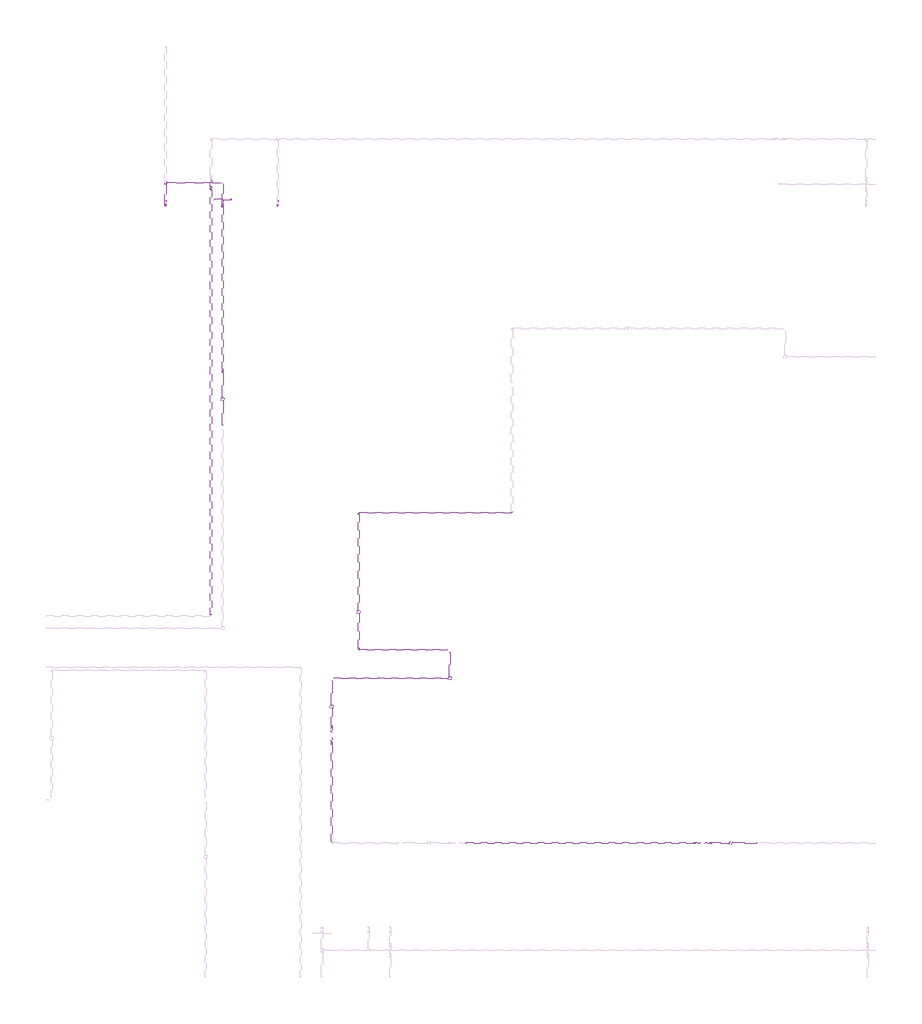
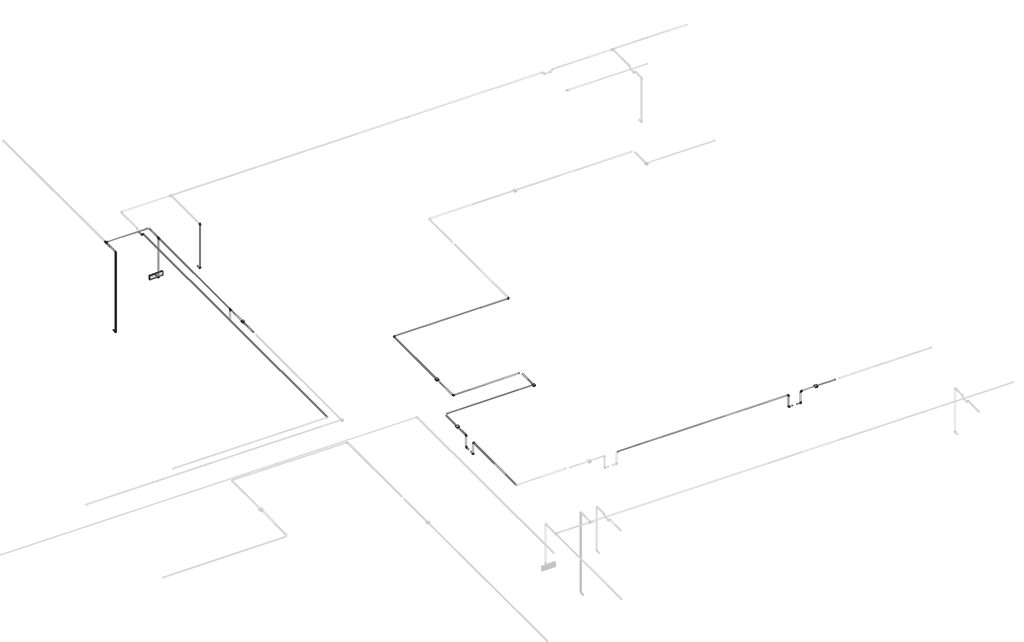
# One storey, part 11 of 13: 36 cable carrier segments, 21 cable carrier fittings, 6 alarms.
"""IFC4 building model written with IfcOpenShell, lengths in millimetres."""

from ifc_helpers import new_model, si_unit, point, frame, frame_2d, origin, place, context, project, spatial, circle_curve, trimmed, segment, composite_curve, outline, extrude, transform, mapped, element, save
from components import alarm_4b7e8fd8, alarm_a2247946, cable_carrier_fitting_69f1a801, cable_carrier_fitting_8122f9af, cable_carrier_fitting_8fd13dfc

model = new_model("IFC4")

# Units and contexts
model_context = context("Model", 3, world=origin())
ifc_project = project(units=[si_unit("LENGTHUNIT", "METRE", prefix="MILLI")], contexts=[model_context])

# Site, building, storey
site = spatial("IfcSite", under=ifc_project)
building = spatial("IfcBuilding", under=site)
storey = spatial("IfcBuildingStorey", under=building, Name="2 этаж", Elevation=3500.0)

# Alarms
placement = place(None, origin())
alarm_shape = alarm_4b7e8fd8(model_context)
element("IfcAlarm", 1, ObjectType="RBZ_Оповещатель_Световой_Рубеж_ОПОП1-R3(грань) : ОПОП 1-R3 \"Выход\"", at=placement, inside=storey, context=model_context, shape_type="MappedRepresentation", body=[
    mapped(alarm_shape, transform((6587.6759979, 12704.6370105, 6000.0), x_axis=(-1.0, 0.0, 0.0), y_axis=(0.0, 0.0, 1.0), z_axis=(0.0, 1.0, 0.0))),
])
alarm_2_shape = alarm_a2247946(model_context)
element("IfcAlarm", 2, ObjectType="RBZ_ИзоляторШлейфа_Рубеж_ИЗ-1_прот.R3(плоскость) : ИЗ-1 прот.R3", at=placement, inside=storey, context=model_context, shape_type="MappedRepresentation", body=[
    mapped(alarm_2_shape, transform((8982.6759979, 5444.6370105, 6997.7), x_axis=(1.0, 0.0, 0.0), y_axis=(0.0, 1.0, 0.0), z_axis=(0.0, 0.0, 1.0))),
])
element("IfcAlarm", 3, ObjectType="RBZ_ИзоляторШлейфа_Рубеж_ИЗ-1_прот.R3(плоскость) : ИЗ-1 прот.R3", at=placement, inside=storey, context=model_context, shape_type="MappedRepresentation", body=[
    mapped(alarm_2_shape, transform((15536.8600649, 1384.6370105, 6997.7), x_axis=(1.0, 0.0, 0.0), y_axis=(0.0, 1.0, 0.0), z_axis=(0.0, 0.0, 1.0))),
])
element("IfcAlarm", 4, ObjectType="RBZ_ИзоляторШлейфа_Рубеж_ИЗ-1_прот.R3(плоскость) : ИЗ-1 прот.R3", at=placement, inside=storey, context=model_context, shape_type="MappedRepresentation", body=[
    mapped(alarm_2_shape, transform((8507.6759979, 3785.1670972, 6997.7), x_axis=(1.0, 0.0, 0.0), y_axis=(0.0, 1.0, 0.0), z_axis=(0.0, 0.0, 1.0))),
])
element("IfcAlarm", 5, ObjectType="RBZ_ИзоляторШлейфа_Рубеж_ИЗ-1_прот.R3(плоскость) : ИЗ-1 прот.R3", at=placement, inside=storey, context=model_context, shape_type="MappedRepresentation", body=[
    mapped(alarm_2_shape, transform((6587.6759979, 9194.6370105, 6997.7), x_axis=(1.0, 0.0, 0.0), y_axis=(0.0, 1.0, 0.0), z_axis=(0.0, 0.0, 1.0))),
])
element("IfcAlarm", 6, ObjectType="RBZ_ИзоляторШлейфа_Рубеж_ИЗ-1_прот.R3(плоскость) : ИЗ-1 прот.R3", at=placement, inside=storey, context=model_context, shape_type="MappedRepresentation", body=[
    mapped(alarm_2_shape, transform((10587.6759979, 4285.1670972, 6997.7), x_axis=(1.0, 0.0, 0.0), y_axis=(0.0, 1.0, 0.0), z_axis=(0.0, 0.0, 1.0))),
])

# Cable carrier fittings
cable_carrier_fitting_shape = cable_carrier_fitting_69f1a801(model_context)
element("IfcCableCarrierFitting", 7, ObjectType="ADSK_Поворот_Минимальный размер : Неспецифицируемый", at=placement, inside=storey, context=model_context, shape_type="MappedRepresentation", body=[
    mapped(cable_carrier_fitting_shape, transform((8982.6759979, 7198.1370105, 6986.95), x_axis=(-1.0, 0.0, 0.0), y_axis=(0.0, -1.0, 0.0), z_axis=(0.0, 0.0, 1.0))),
])
element("IfcCableCarrierFitting", 8, ObjectType="ADSK_Поворот_Минимальный размер : Неспецифицируемый", at=placement, inside=storey, context=model_context, shape_type="MappedRepresentation", body=[
    mapped(cable_carrier_fitting_shape, transform((11682.6759979, 7198.1370105, 6986.95), x_axis=(1.0, 0.0, 0.0), y_axis=(0.0, 1.0, 0.0), z_axis=(0.0, 0.0, 1.0))),
])
element("IfcCableCarrierFitting", 9, ObjectType="ADSK_Поворот_Минимальный размер : Неспецифицируемый", at=placement, inside=storey, context=model_context, shape_type="MappedRepresentation", body=[
    mapped(cable_carrier_fitting_shape, transform((15181.3758035, 1384.6370105, 6691.5753772), x_axis=(1.0, 0.0, 0.0), y_axis=(0.0, 0.0, 1.0), z_axis=(0.0, -1.0, 0.0))),
])
element("IfcCableCarrierFitting", 10, ObjectType="ADSK_Поворот_Минимальный размер : Неспецифицируемый", at=placement, inside=storey, context=model_context, shape_type="MappedRepresentation", body=[
    mapped(cable_carrier_fitting_shape, transform((15181.3758035, 1384.6370105, 6986.95), x_axis=(0.0, 0.0, 1.0), y_axis=(1.0, 0.0, 0.0), z_axis=(0.0, 1.0, 0.0))),
])
element("IfcCableCarrierFitting", 11, ObjectType="ADSK_Поворот_Минимальный размер : Неспецифицируемый", at=placement, inside=storey, context=model_context, shape_type="MappedRepresentation", body=[
    mapped(cable_carrier_fitting_shape, transform((14893.9761923, 1384.6370105, 6691.5753772), x_axis=(-1.0, 0.0, 0.0), y_axis=(0.0, 0.0, 1.0), z_axis=(0.0, 1.0, 0.0))),
])
element("IfcCableCarrierFitting", 12, ObjectType="ADSK_Поворот_Минимальный размер : Неспецифицируемый", at=placement, inside=storey, context=model_context, shape_type="MappedRepresentation", body=[
    mapped(cable_carrier_fitting_shape, transform((14893.9761923, 1384.6370105, 6990.0), x_axis=(0.0, 0.0, 1.0), y_axis=(-1.0, 0.0, 0.0), z_axis=(0.0, -1.0, 0.0))),
])
element("IfcCableCarrierFitting", 13, ObjectType="ADSK_Поворот_Минимальный размер : Неспецифицируемый", at=placement, inside=storey, context=model_context, shape_type="MappedRepresentation", body=[
    mapped(cable_carrier_fitting_shape, transform((8507.6759979, 3140.9372049, 6691.5753772), x_axis=(0.0, -1.0, 0.0), y_axis=(0.0, 0.0, 1.0), z_axis=(-1.0, 0.0, 0.0))),
])
element("IfcCableCarrierFitting", 14, ObjectType="ADSK_Поворот_Минимальный размер : Неспецифицируемый", at=placement, inside=storey, context=model_context, shape_type="MappedRepresentation", body=[
    mapped(cable_carrier_fitting_shape, transform((8507.6759979, 3140.9372049, 6986.95), x_axis=(0.0, 0.0, 1.0), y_axis=(0.0, -1.0, 0.0), z_axis=(1.0, 0.0, 0.0))),
])
element("IfcCableCarrierFitting", 15, ObjectType="ADSK_Поворот_Минимальный размер : Неспецифицируемый", at=placement, inside=storey, context=model_context, shape_type="MappedRepresentation", body=[
    mapped(cable_carrier_fitting_shape, transform((8507.6759979, 3428.3368161, 6691.5753772), x_axis=(0.0, 1.0, 0.0), y_axis=(0.0, 0.0, 1.0), z_axis=(1.0, 0.0, 0.0))),
])
element("IfcCableCarrierFitting", 16, ObjectType="ADSK_Поворот_Минимальный размер : Неспецифицируемый", at=placement, inside=storey, context=model_context, shape_type="MappedRepresentation", body=[
    mapped(cable_carrier_fitting_shape, transform((8507.6759979, 3428.3368161, 6986.95), x_axis=(0.0, 0.0, 1.0), y_axis=(0.0, 1.0, 0.0), z_axis=(-1.0, 0.0, 0.0))),
])
element("IfcCableCarrierFitting", 17, ObjectType="ADSK_Поворот_Минимальный размер : Неспецифицируемый", at=placement, inside=storey, context=model_context, shape_type="MappedRepresentation", body=[
    mapped(cable_carrier_fitting_shape, transform((8982.6759979, 4788.6370105, 6986.95), x_axis=(0.0, -1.0, 0.0), y_axis=(1.0, 0.0, 0.0), z_axis=(0.0, 0.0, 1.0))),
])
element("IfcCableCarrierFitting", 18, ObjectType="ADSK_Поворот_Минимальный размер : Неспецифицируемый", at=placement, inside=storey, context=model_context, shape_type="MappedRepresentation", body=[
    mapped(cable_carrier_fitting_shape, transform((7560.1759979, 12607.4372049, 5897.4861504), x_axis=(0.0, -1.0, 0.0), y_axis=(0.0, 0.0, 1.0), z_axis=(-1.0, 0.0, 0.0))),
])
element("IfcCableCarrierFitting", 19, ObjectType="ADSK_Поворот_Минимальный размер : Неспецифицируемый", at=placement, inside=storey, context=model_context, shape_type="MappedRepresentation", body=[
    mapped(cable_carrier_fitting_shape, transform((7560.1759979, 12607.4372049, 6990.0), x_axis=(0.0, 0.0, 1.0), y_axis=(0.0, 1.0, 0.0), z_axis=(-1.0, 0.0, 0.0))),
])
element("IfcCableCarrierFitting", 20, ObjectType="ADSK_Поворот_Минимальный размер : Неспецифицируемый", at=placement, inside=storey, context=model_context, shape_type="MappedRepresentation", body=[
    mapped(cable_carrier_fitting_shape, transform((5582.6759979, 12607.4372049, 5000.0), x_axis=(0.0, -1.0, 0.0), y_axis=(0.0, 0.0, 1.0), z_axis=(-1.0, 0.0, 0.0))),
])
element("IfcCableCarrierFitting", 21, ObjectType="ADSK_Поворот_Минимальный размер : Неспецифицируемый", at=placement, inside=storey, context=model_context, shape_type="MappedRepresentation", body=[
    mapped(cable_carrier_fitting_shape, transform((5582.6759979, 12607.4372049, 6986.95), x_axis=(0.0, 0.0, 1.0), y_axis=(0.0, 1.0, 0.0), z_axis=(-1.0, 0.0, 0.0))),
])
element("IfcCableCarrierFitting", 22, ObjectType="ADSK_Поворот_Минимальный размер : Неспецифицируемый", at=placement, inside=storey, context=model_context, shape_type="MappedRepresentation", body=[
    mapped(cable_carrier_fitting_shape, transform((6587.6759979, 12607.4372049, 6000.0), x_axis=(0.0, -1.0, 0.0), y_axis=(0.0, 0.0, 1.0), z_axis=(-1.0, 0.0, 0.0))),
])
cable_carrier_fitting_2_shape = cable_carrier_fitting_8122f9af(model_context)
element("IfcCableCarrierFitting", 23, ObjectType="ADSK_Поворот_Минимальный размер : Неспецифицируемый", at=placement, inside=storey, context=model_context, shape_type="MappedRepresentation", body=[
    mapped(cable_carrier_fitting_2_shape, transform((6382.6759979, 12943.0855871, 6940.0), x_axis=(0.0, 0.707106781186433, -0.7071067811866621), y_axis=(0.0, 0.7071067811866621, 0.707106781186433), z_axis=(1.0, 0.0, 0.0))),
])
element("IfcCableCarrierFitting", 24, ObjectType="ADSK_Поворот_Минимальный размер : Неспецифицируемый", at=placement, inside=storey, context=model_context, shape_type="MappedRepresentation", body=[
    mapped(cable_carrier_fitting_2_shape, transform((6382.6759979, 12893.0855871, 6990.0), x_axis=(0.0, -0.7071067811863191, 0.7071067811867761), y_axis=(0.0, -0.7071067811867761, -0.7071067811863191), z_axis=(1.0, 0.0, 0.0))),
])
cable_carrier_fitting_3_shape = cable_carrier_fitting_8fd13dfc(model_context)
element("IfcCableCarrierFitting", 25, ObjectType="ADSK_Тройник : ПВХ", at=placement, inside=storey, context=model_context, shape_type="MappedRepresentation", body=[
    mapped(cable_carrier_fitting_3_shape, transform((5582.6759979, 13009.6578584, 6986.95), x_axis=(0.0, 1.0, 0.0), y_axis=(-1.0, 0.0, 0.0), z_axis=(0.0, 0.0, 1.0))),
])
element("IfcCableCarrierFitting", 26, ObjectType="ADSK_Тройник : ПВХ", at=placement, inside=storey, context=model_context, shape_type="MappedRepresentation", body=[
    mapped(cable_carrier_fitting_3_shape, transform((6587.6759979, 12607.4372049, 6986.95), x_axis=(0.0, -1.0, 0.0), y_axis=(0.0, 0.0, 1.0), z_axis=(-1.0, 0.0, 0.0))),
])
element("IfcCableCarrierFitting", 27, ObjectType="ADSK_Тройник : ПВХ", at=placement, inside=storey, context=model_context, shape_type="MappedRepresentation", body=[
    mapped(cable_carrier_fitting_3_shape, transform((6587.6759979, 9694.6370105, 6986.95), x_axis=(0.0, 1.0, 0.0), y_axis=(0.0, 0.0, 1.0), z_axis=(1.0, 0.0, 0.0))),
])

# Cable carrier segments
element("IfcCableCarrierSegment", 28, ObjectType="Гофрированная труба", at=placement, inside=storey, context=model_context, shape_type="SweptSolid", body=[
    extrude(outline(composite_curve([segment(trimmed(circle_curve(frame_2d((13009.6578584, 6986.95)), 10.0), [point((13019.6578584, 6986.95))], [point((13009.6578584, 6976.95))], False, "CARTESIAN"), True, "CONTINUOUS"), segment(trimmed(circle_curve(frame_2d((13009.6578584, 6986.95)), 10.0), [point((13009.6578584, 6976.95))], [point((12999.6578584, 6986.95))], False, "CARTESIAN"), True, "CONTINUOUS"), segment(trimmed(circle_curve(frame_2d((13009.6578584, 6986.95)), 10.0), [point((12999.6578584, 6986.95))], [point((13009.6578584, 6996.95))], False, "CARTESIAN"), True, "CONTINUOUS"), segment(trimmed(circle_curve(frame_2d((13009.6578584, 6986.95)), 10.0), [point((13009.6578584, 6996.95))], [point((13019.6578584, 6986.95))], False, "CARTESIAN"), True, "CONTINUOUS")], self_intersect=False)), frame((5612.6759979, 0.0, 0.0), z_axis=(1.0, 0.0, 0.0), x_axis=(0.0, 1.0, 0.0)), (0.0, 0.0, 1.0), 954.0),
])
element("IfcCableCarrierSegment", 29, ObjectType="Гофрированная труба", at=placement, inside=storey, context=model_context, shape_type="SweptSolid", body=[
    extrude(outline(composite_curve([segment(trimmed(circle_curve(frame_2d((7198.1370105, 6986.95)), 10.0), [point((7188.1370105, 6986.95))], [point((7198.1370105, 6996.95))], False, "CARTESIAN"), True, "CONTINUOUS"), segment(trimmed(circle_curve(frame_2d((7198.1370105, 6986.95)), 10.0), [point((7198.1370105, 6996.95))], [point((7208.1370105, 6986.95))], False, "CARTESIAN"), True, "CONTINUOUS"), segment(trimmed(circle_curve(frame_2d((7198.1370105, 6986.95)), 10.0), [point((7208.1370105, 6986.95))], [point((7198.1370105, 6976.95))], False, "CARTESIAN"), True, "CONTINUOUS"), segment(trimmed(circle_curve(frame_2d((7198.1370105, 6986.95)), 10.0), [point((7198.1370105, 6976.95))], [point((7188.1370105, 6986.95))], False, "CARTESIAN"), True, "CONTINUOUS")], self_intersect=False)), frame((9003.6759979, 0.0, 0.0), z_axis=(1.0, 0.0, 0.0), x_axis=(0.0, 1.0, 0.0)), (0.0, 0.0, 1.0), 2658.0),
])
element("IfcCableCarrierSegment", 30, ObjectType="Гофрированная труба", at=placement, inside=storey, context=model_context, shape_type="SweptSolid", body=[
    extrude(outline(composite_curve([segment(trimmed(circle_curve(frame_2d((6986.95, 8982.6759979)), 10.0), [point((6986.95, 8992.6759979))], [point((6996.95, 8982.6759979))], False, "CARTESIAN"), True, "CONTINUOUS"), segment(trimmed(circle_curve(frame_2d((6986.95, 8982.6759979)), 10.0), [point((6996.95, 8982.6759979))], [point((6986.95, 8972.6759979))], False, "CARTESIAN"), True, "CONTINUOUS"), segment(trimmed(circle_curve(frame_2d((6986.95, 8982.6759979)), 10.0), [point((6986.95, 8972.6759979))], [point((6976.95, 8982.6759979))], False, "CARTESIAN"), True, "CONTINUOUS"), segment(trimmed(circle_curve(frame_2d((6986.95, 8982.6759979)), 10.0), [point((6976.95, 8982.6759979))], [point((6986.95, 8992.6759979))], False, "CARTESIAN"), True, "CONTINUOUS")], self_intersect=False)), frame((0.0, 5470.6370105, 0.0), z_axis=(0.0, 1.0, 0.0), x_axis=(0.0, 0.0, 1.0)), (0.0, 0.0, 1.0), 1706.5),
])
element("IfcCableCarrierSegment", 31, ObjectType="Гофрированная труба", at=placement, inside=storey, context=model_context, shape_type="SweptSolid", body=[
    extrude(outline(composite_curve([segment(trimmed(circle_curve(frame_2d((6986.95, 8982.6759979)), 10.0), [point((6986.95, 8972.6759979))], [point((6976.95, 8982.6759979))], False, "CARTESIAN"), True, "CONTINUOUS"), segment(trimmed(circle_curve(frame_2d((6986.95, 8982.6759979)), 10.0), [point((6976.95, 8982.6759979))], [point((6986.95, 8992.6759979))], False, "CARTESIAN"), True, "CONTINUOUS"), segment(trimmed(circle_curve(frame_2d((6986.95, 8982.6759979)), 10.0), [point((6986.95, 8992.6759979))], [point((6996.95, 8982.6759979))], False, "CARTESIAN"), True, "CONTINUOUS"), segment(trimmed(circle_curve(frame_2d((6986.95, 8982.6759979)), 10.0), [point((6996.95, 8982.6759979))], [point((6986.95, 8972.6759979))], False, "CARTESIAN"), True, "CONTINUOUS")], self_intersect=False)), frame((0.0, 4809.6370105, 0.0), z_axis=(0.0, 1.0, 0.0), x_axis=(0.0, 0.0, 1.0)), (0.0, 0.0, 1.0), 609.0),
])
element("IfcCableCarrierSegment", 32, ObjectType="Гофрированная труба", at=placement, inside=storey, context=model_context, shape_type="SweptSolid", body=[
    extrude(outline(composite_curve([segment(trimmed(circle_curve(frame_2d((1384.6370105, 6986.95)), 10.0), [point((1374.6370105, 6986.95))], [point((1384.6370105, 6996.95))], False, "CARTESIAN"), True, "CONTINUOUS"), segment(trimmed(circle_curve(frame_2d((1384.6370105, 6986.95)), 10.0), [point((1384.6370105, 6996.95))], [point((1394.6370105, 6986.95))], False, "CARTESIAN"), True, "CONTINUOUS"), segment(trimmed(circle_curve(frame_2d((1384.6370105, 6986.95)), 10.0), [point((1394.6370105, 6986.95))], [point((1384.6370105, 6976.95))], False, "CARTESIAN"), True, "CONTINUOUS"), segment(trimmed(circle_curve(frame_2d((1384.6370105, 6986.95)), 10.0), [point((1384.6370105, 6976.95))], [point((1374.6370105, 6986.95))], False, "CARTESIAN"), True, "CONTINUOUS")], self_intersect=False)), frame((15562.8600649, 0.0, 0.0), z_axis=(1.0, 0.0, 0.0), x_axis=(0.0, 1.0, 0.0)), (0.0, 0.0, 1.0), 428.315933),
])
element("IfcCableCarrierSegment", 33, ObjectType="Гофрированная труба", at=placement, inside=storey, context=model_context, shape_type="SweptSolid", body=[
    extrude(outline(composite_curve([segment(trimmed(circle_curve(frame_2d((1384.6370105, 6986.95)), 10.0), [point((1374.6370105, 6986.95))], [point((1384.6370105, 6996.95))], False, "CARTESIAN"), True, "CONTINUOUS"), segment(trimmed(circle_curve(frame_2d((1384.6370105, 6986.95)), 10.0), [point((1384.6370105, 6996.95))], [point((1394.6370105, 6986.95))], False, "CARTESIAN"), True, "CONTINUOUS"), segment(trimmed(circle_curve(frame_2d((1384.6370105, 6986.95)), 10.0), [point((1394.6370105, 6986.95))], [point((1384.6370105, 6976.95))], False, "CARTESIAN"), True, "CONTINUOUS"), segment(trimmed(circle_curve(frame_2d((1384.6370105, 6986.95)), 10.0), [point((1384.6370105, 6976.95))], [point((1374.6370105, 6986.95))], False, "CARTESIAN"), True, "CONTINUOUS")], self_intersect=False)), frame((15202.3758035, 0.0, 0.0), z_axis=(1.0, 0.0, 0.0), x_axis=(0.0, 1.0, 0.0)), (0.0, 0.0, 1.0), 308.4842614),
])
element("IfcCableCarrierSegment", 34, ObjectType="Гофрированная труба", at=placement, inside=storey, context=model_context, shape_type="SweptSolid", body=[
    extrude(outline(composite_curve([segment(trimmed(circle_curve(frame_2d((1384.6370105, 6691.5753772)), 10.0), [point((1374.6370105, 6691.5753772))], [point((1384.6370105, 6701.5753772))], False, "CARTESIAN"), True, "CONTINUOUS"), segment(trimmed(circle_curve(frame_2d((1384.6370105, 6691.5753772)), 10.0), [point((1384.6370105, 6701.5753772))], [point((1394.6370105, 6691.5753772))], False, "CARTESIAN"), True, "CONTINUOUS"), segment(trimmed(circle_curve(frame_2d((1384.6370105, 6691.5753772)), 10.0), [point((1394.6370105, 6691.5753772))], [point((1384.6370105, 6681.5753772))], False, "CARTESIAN"), True, "CONTINUOUS"), segment(trimmed(circle_curve(frame_2d((1384.6370105, 6691.5753772)), 10.0), [point((1384.6370105, 6681.5753772))], [point((1374.6370105, 6691.5753772))], False, "CARTESIAN"), True, "CONTINUOUS")], self_intersect=False)), frame((15084.1759979, 0.0, 0.0), z_axis=(1.0, 0.0, 0.0), x_axis=(0.0, 1.0, 0.0)), (0.0, 0.0, 1.0), 76.1998056),
])
element("IfcCableCarrierSegment", 35, ObjectType="Гофрированная труба", at=placement, inside=storey, context=model_context, shape_type="SweptSolid", body=[
    extrude(outline(composite_curve([segment(trimmed(circle_curve(frame_2d((15181.3758035, 1384.6370105)), 10.0), [point((15171.3758035, 1384.6370105))], [point((15181.3758035, 1394.6370105))], False, "CARTESIAN"), True, "CONTINUOUS"), segment(trimmed(circle_curve(frame_2d((15181.3758035, 1384.6370105)), 10.0), [point((15181.3758035, 1394.6370105))], [point((15191.3758035, 1384.6370105))], False, "CARTESIAN"), True, "CONTINUOUS"), segment(trimmed(circle_curve(frame_2d((15181.3758035, 1384.6370105)), 10.0), [point((15191.3758035, 1384.6370105))], [point((15181.3758035, 1374.6370105))], False, "CARTESIAN"), True, "CONTINUOUS"), segment(trimmed(circle_curve(frame_2d((15181.3758035, 1384.6370105)), 10.0), [point((15181.3758035, 1374.6370105))], [point((15171.3758035, 1384.6370105))], False, "CARTESIAN"), True, "CONTINUOUS")], self_intersect=False)), frame((0.0, 0.0, 6712.5753772), z_axis=(0.0, 0.0, 1.0), x_axis=(1.0, 0.0, 0.0)), (0.0, 0.0, 1.0), 253.3746228),
])
element("IfcCableCarrierSegment", 36, ObjectType="Гофрированная труба", at=placement, inside=storey, context=model_context, shape_type="SweptSolid", body=[
    extrude(outline(composite_curve([segment(trimmed(circle_curve(frame_2d((1384.6370105, 6990.0)), 10.0), [point((1374.6370105, 6990.0))], [point((1384.6370105, 7000.0))], False, "CARTESIAN"), True, "CONTINUOUS"), segment(trimmed(circle_curve(frame_2d((1384.6370105, 6990.0)), 10.0), [point((1384.6370105, 7000.0))], [point((1394.6370105, 6990.0))], False, "CARTESIAN"), True, "CONTINUOUS"), segment(trimmed(circle_curve(frame_2d((1384.6370105, 6990.0)), 10.0), [point((1394.6370105, 6990.0))], [point((1384.6370105, 6980.0))], False, "CARTESIAN"), True, "CONTINUOUS"), segment(trimmed(circle_curve(frame_2d((1384.6370105, 6990.0)), 10.0), [point((1384.6370105, 6980.0))], [point((1374.6370105, 6990.0))], False, "CARTESIAN"), True, "CONTINUOUS")], self_intersect=False)), frame((10882.3758035, 0.0, 0.0), z_axis=(1.0, 0.0, 0.0), x_axis=(0.0, 1.0, 0.0)), (0.0, 0.0, 1.0), 3990.6003888),
])
element("IfcCableCarrierSegment", 37, ObjectType="Гофрированная труба", at=placement, inside=storey, context=model_context, shape_type="SweptSolid", body=[
    extrude(outline(composite_curve([segment(trimmed(circle_curve(frame_2d((1384.6370105, 6691.5753772)), 10.0), [point((1394.6370105, 6691.5753772))], [point((1384.6370105, 6681.5753772))], False, "CARTESIAN"), True, "CONTINUOUS"), segment(trimmed(circle_curve(frame_2d((1384.6370105, 6691.5753772)), 10.0), [point((1384.6370105, 6681.5753772))], [point((1374.6370105, 6691.5753772))], False, "CARTESIAN"), True, "CONTINUOUS"), segment(trimmed(circle_curve(frame_2d((1384.6370105, 6691.5753772)), 10.0), [point((1374.6370105, 6691.5753772))], [point((1384.6370105, 6701.5753772))], False, "CARTESIAN"), True, "CONTINUOUS"), segment(trimmed(circle_curve(frame_2d((1384.6370105, 6691.5753772)), 10.0), [point((1384.6370105, 6701.5753772))], [point((1394.6370105, 6691.5753772))], False, "CARTESIAN"), True, "CONTINUOUS")], self_intersect=False)), frame((14914.9761923, 0.0, 0.0), z_axis=(1.0, 0.0, 0.0), x_axis=(0.0, 1.0, 0.0)), (0.0, 0.0, 1.0), 76.1998056),
])
element("IfcCableCarrierSegment", 38, ObjectType="Гофрированная труба", at=placement, inside=storey, context=model_context, shape_type="SweptSolid", body=[
    extrude(outline(composite_curve([segment(trimmed(circle_curve(frame_2d((14893.9761923, 1384.6370105)), 10.0), [point((14883.9761923, 1384.6370105))], [point((14893.9761923, 1394.6370105))], False, "CARTESIAN"), True, "CONTINUOUS"), segment(trimmed(circle_curve(frame_2d((14893.9761923, 1384.6370105)), 10.0), [point((14893.9761923, 1394.6370105))], [point((14903.9761923, 1384.6370105))], False, "CARTESIAN"), True, "CONTINUOUS"), segment(trimmed(circle_curve(frame_2d((14893.9761923, 1384.6370105)), 10.0), [point((14903.9761923, 1384.6370105))], [point((14893.9761923, 1374.6370105))], False, "CARTESIAN"), True, "CONTINUOUS"), segment(trimmed(circle_curve(frame_2d((14893.9761923, 1384.6370105)), 10.0), [point((14893.9761923, 1374.6370105))], [point((14883.9761923, 1384.6370105))], False, "CARTESIAN"), True, "CONTINUOUS")], self_intersect=False)), frame((0.0, 0.0, 6712.5753772), z_axis=(0.0, 0.0, 1.0), x_axis=(1.0, 0.0, 0.0)), (0.0, 0.0, 1.0), 256.4246228),
])
element("IfcCableCarrierSegment", 39, ObjectType="Гофрированная труба", at=placement, inside=storey, context=model_context, shape_type="SweptSolid", body=[
    extrude(outline(composite_curve([segment(trimmed(circle_curve(frame_2d((6986.95, 8507.6759979)), 10.0), [point((6986.95, 8517.6759979))], [point((6996.95, 8507.6759979))], False, "CARTESIAN"), True, "CONTINUOUS"), segment(trimmed(circle_curve(frame_2d((6986.95, 8507.6759979)), 10.0), [point((6996.95, 8507.6759979))], [point((6986.95, 8497.6759979))], False, "CARTESIAN"), True, "CONTINUOUS"), segment(trimmed(circle_curve(frame_2d((6986.95, 8507.6759979)), 10.0), [point((6986.95, 8497.6759979))], [point((6976.95, 8507.6759979))], False, "CARTESIAN"), True, "CONTINUOUS"), segment(trimmed(circle_curve(frame_2d((6986.95, 8507.6759979)), 10.0), [point((6976.95, 8507.6759979))], [point((6986.95, 8517.6759979))], False, "CARTESIAN"), True, "CONTINUOUS")], self_intersect=False)), frame((0.0, 1405.6370105, 0.0), z_axis=(0.0, 1.0, 0.0), x_axis=(0.0, 0.0, 1.0)), (0.0, 0.0, 1.0), 1714.3001944),
])
element("IfcCableCarrierSegment", 40, ObjectType="Гофрированная труба", at=placement, inside=storey, context=model_context, shape_type="SweptSolid", body=[
    extrude(outline(composite_curve([segment(trimmed(circle_curve(frame_2d((6691.5753772, 8507.6759979)), 10.0), [point((6691.5753772, 8497.6759979))], [point((6681.5753772, 8507.6759979))], False, "CARTESIAN"), True, "CONTINUOUS"), segment(trimmed(circle_curve(frame_2d((6691.5753772, 8507.6759979)), 10.0), [point((6681.5753772, 8507.6759979))], [point((6691.5753772, 8517.6759979))], False, "CARTESIAN"), True, "CONTINUOUS"), segment(trimmed(circle_curve(frame_2d((6691.5753772, 8507.6759979)), 10.0), [point((6691.5753772, 8517.6759979))], [point((6701.5753772, 8507.6759979))], False, "CARTESIAN"), True, "CONTINUOUS"), segment(trimmed(circle_curve(frame_2d((6691.5753772, 8507.6759979)), 10.0), [point((6701.5753772, 8507.6759979))], [point((6691.5753772, 8497.6759979))], False, "CARTESIAN"), True, "CONTINUOUS")], self_intersect=False)), frame((0.0, 3161.9372049, 0.0), z_axis=(0.0, 1.0, 0.0), x_axis=(0.0, 0.0, 1.0)), (0.0, 0.0, 1.0), 76.1998056),
])
element("IfcCableCarrierSegment", 41, ObjectType="Гофрированная труба", at=placement, inside=storey, context=model_context, shape_type="SweptSolid", body=[
    extrude(outline(composite_curve([segment(trimmed(circle_curve(frame_2d((8507.6759979, 3140.9372049)), 10.0), [point((8497.6759979, 3140.9372049))], [point((8507.6759979, 3150.9372049))], False, "CARTESIAN"), True, "CONTINUOUS"), segment(trimmed(circle_curve(frame_2d((8507.6759979, 3140.9372049)), 10.0), [point((8507.6759979, 3150.9372049))], [point((8517.6759979, 3140.9372049))], False, "CARTESIAN"), True, "CONTINUOUS"), segment(trimmed(circle_curve(frame_2d((8507.6759979, 3140.9372049)), 10.0), [point((8517.6759979, 3140.9372049))], [point((8507.6759979, 3130.9372049))], False, "CARTESIAN"), True, "CONTINUOUS"), segment(trimmed(circle_curve(frame_2d((8507.6759979, 3140.9372049)), 10.0), [point((8507.6759979, 3130.9372049))], [point((8497.6759979, 3140.9372049))], False, "CARTESIAN"), True, "CONTINUOUS")], self_intersect=False)), frame((0.0, 0.0, 6712.5753772), z_axis=(0.0, 0.0, 1.0), x_axis=(1.0, 0.0, 0.0)), (0.0, 0.0, 1.0), 253.3746228),
])
element("IfcCableCarrierSegment", 42, ObjectType="Гофрированная труба", at=placement, inside=storey, context=model_context, shape_type="SweptSolid", body=[
    extrude(outline(composite_curve([segment(trimmed(circle_curve(frame_2d((6986.95, 8507.6759979)), 10.0), [point((6986.95, 8497.6759979))], [point((6976.95, 8507.6759979))], False, "CARTESIAN"), True, "CONTINUOUS"), segment(trimmed(circle_curve(frame_2d((6986.95, 8507.6759979)), 10.0), [point((6976.95, 8507.6759979))], [point((6986.95, 8517.6759979))], False, "CARTESIAN"), True, "CONTINUOUS"), segment(trimmed(circle_curve(frame_2d((6986.95, 8507.6759979)), 10.0), [point((6986.95, 8517.6759979))], [point((6996.95, 8507.6759979))], False, "CARTESIAN"), True, "CONTINUOUS"), segment(trimmed(circle_curve(frame_2d((6986.95, 8507.6759979)), 10.0), [point((6996.95, 8507.6759979))], [point((6986.95, 8497.6759979))], False, "CARTESIAN"), True, "CONTINUOUS")], self_intersect=False)), frame((0.0, 3449.3368161, 0.0), z_axis=(0.0, 1.0, 0.0), x_axis=(0.0, 0.0, 1.0)), (0.0, 0.0, 1.0), 309.8302811),
])
element("IfcCableCarrierSegment", 43, ObjectType="Гофрированная труба", at=placement, inside=storey, context=model_context, shape_type="SweptSolid", body=[
    extrude(outline(composite_curve([segment(trimmed(circle_curve(frame_2d((6691.5753772, 8507.6759979)), 10.0), [point((6691.5753772, 8517.6759979))], [point((6701.5753772, 8507.6759979))], False, "CARTESIAN"), True, "CONTINUOUS"), segment(trimmed(circle_curve(frame_2d((6691.5753772, 8507.6759979)), 10.0), [point((6701.5753772, 8507.6759979))], [point((6691.5753772, 8497.6759979))], False, "CARTESIAN"), True, "CONTINUOUS"), segment(trimmed(circle_curve(frame_2d((6691.5753772, 8507.6759979)), 10.0), [point((6691.5753772, 8497.6759979))], [point((6681.5753772, 8507.6759979))], False, "CARTESIAN"), True, "CONTINUOUS"), segment(trimmed(circle_curve(frame_2d((6691.5753772, 8507.6759979)), 10.0), [point((6681.5753772, 8507.6759979))], [point((6691.5753772, 8517.6759979))], False, "CARTESIAN"), True, "CONTINUOUS")], self_intersect=False)), frame((0.0, 3331.1370105, 0.0), z_axis=(0.0, 1.0, 0.0), x_axis=(0.0, 0.0, 1.0)), (0.0, 0.0, 1.0), 76.1998056),
])
element("IfcCableCarrierSegment", 44, ObjectType="Гофрированная труба", at=placement, inside=storey, context=model_context, shape_type="SweptSolid", body=[
    extrude(outline(composite_curve([segment(trimmed(circle_curve(frame_2d((8507.6759979, 3428.3368161)), 10.0), [point((8497.6759979, 3428.3368161))], [point((8507.6759979, 3438.3368161))], False, "CARTESIAN"), True, "CONTINUOUS"), segment(trimmed(circle_curve(frame_2d((8507.6759979, 3428.3368161)), 10.0), [point((8507.6759979, 3438.3368161))], [point((8517.6759979, 3428.3368161))], False, "CARTESIAN"), True, "CONTINUOUS"), segment(trimmed(circle_curve(frame_2d((8507.6759979, 3428.3368161)), 10.0), [point((8517.6759979, 3428.3368161))], [point((8507.6759979, 3418.3368161))], False, "CARTESIAN"), True, "CONTINUOUS"), segment(trimmed(circle_curve(frame_2d((8507.6759979, 3428.3368161)), 10.0), [point((8507.6759979, 3418.3368161))], [point((8497.6759979, 3428.3368161))], False, "CARTESIAN"), True, "CONTINUOUS")], self_intersect=False)), frame((0.0, 0.0, 6712.5753772), z_axis=(0.0, 0.0, 1.0), x_axis=(1.0, 0.0, 0.0)), (0.0, 0.0, 1.0), 253.3746228),
])
element("IfcCableCarrierSegment", 45, ObjectType="Гофрированная труба", at=placement, inside=storey, context=model_context, shape_type="SweptSolid", body=[
    extrude(outline(composite_curve([segment(trimmed(circle_curve(frame_2d((6986.95, 8507.6759979)), 10.0), [point((6986.95, 8497.6759979))], [point((6976.95, 8507.6759979))], False, "CARTESIAN"), True, "CONTINUOUS"), segment(trimmed(circle_curve(frame_2d((6986.95, 8507.6759979)), 10.0), [point((6976.95, 8507.6759979))], [point((6986.95, 8517.6759979))], False, "CARTESIAN"), True, "CONTINUOUS"), segment(trimmed(circle_curve(frame_2d((6986.95, 8507.6759979)), 10.0), [point((6986.95, 8517.6759979))], [point((6996.95, 8507.6759979))], False, "CARTESIAN"), True, "CONTINUOUS"), segment(trimmed(circle_curve(frame_2d((6986.95, 8507.6759979)), 10.0), [point((6996.95, 8507.6759979))], [point((6986.95, 8497.6759979))], False, "CARTESIAN"), True, "CONTINUOUS")], self_intersect=False)), frame((0.0, 3811.1670972, 0.0), z_axis=(0.0, 1.0, 0.0), x_axis=(0.0, 0.0, 1.0)), (0.0, 0.0, 1.0), 427.5),
])
element("IfcCableCarrierSegment", 46, ObjectType="Гофрированная труба", at=placement, inside=storey, context=model_context, shape_type="SweptSolid", body=[
    extrude(outline(composite_curve([segment(trimmed(circle_curve(frame_2d((4285.1670972, 6986.95)), 10.0), [point((4275.1670972, 6986.95))], [point((4285.1670972, 6996.95))], False, "CARTESIAN"), True, "CONTINUOUS"), segment(trimmed(circle_curve(frame_2d((4285.1670972, 6986.95)), 10.0), [point((4285.1670972, 6996.95))], [point((4295.1670972, 6986.95))], False, "CARTESIAN"), True, "CONTINUOUS"), segment(trimmed(circle_curve(frame_2d((4285.1670972, 6986.95)), 10.0), [point((4295.1670972, 6986.95))], [point((4285.1670972, 6976.95))], False, "CARTESIAN"), True, "CONTINUOUS"), segment(trimmed(circle_curve(frame_2d((4285.1670972, 6986.95)), 10.0), [point((4285.1670972, 6976.95))], [point((4275.1670972, 6986.95))], False, "CARTESIAN"), True, "CONTINUOUS")], self_intersect=False)), frame((8554.1759979, 0.0, 0.0), z_axis=(1.0, 0.0, 0.0), x_axis=(0.0, 1.0, 0.0)), (0.0, 0.0, 1.0), 2007.5),
])
element("IfcCableCarrierSegment", 47, ObjectType="Гофрированная труба", at=placement, inside=storey, context=model_context, shape_type="SweptSolid", body=[
    extrude(outline(composite_curve([segment(trimmed(circle_curve(frame_2d((6986.95, 6587.6759979)), 10.0), [point((6986.95, 6597.6759979))], [point((6996.95, 6587.6759979))], False, "CARTESIAN"), True, "CONTINUOUS"), segment(trimmed(circle_curve(frame_2d((6986.95, 6587.6759979)), 10.0), [point((6996.95, 6587.6759979))], [point((6986.95, 6577.6759979))], False, "CARTESIAN"), True, "CONTINUOUS"), segment(trimmed(circle_curve(frame_2d((6986.95, 6587.6759979)), 10.0), [point((6986.95, 6577.6759979))], [point((6976.95, 6587.6759979))], False, "CARTESIAN"), True, "CONTINUOUS"), segment(trimmed(circle_curve(frame_2d((6986.95, 6587.6759979)), 10.0), [point((6976.95, 6587.6759979))], [point((6986.95, 6597.6759979))], False, "CARTESIAN"), True, "CONTINUOUS")], self_intersect=False)), frame((0.0, 8741.1370105, 0.0), z_axis=(0.0, 1.0, 0.0), x_axis=(0.0, 0.0, 1.0)), (0.0, 0.0, 1.0), 427.5),
])
element("IfcCableCarrierSegment", 48, ObjectType="Гофрированная труба", at=placement, inside=storey, context=model_context, shape_type="SweptSolid", body=[
    extrude(outline(composite_curve([segment(trimmed(circle_curve(frame_2d((4788.6370105, 6986.95)), 10.0), [point((4798.6370105, 6986.95))], [point((4788.6370105, 6976.95))], False, "CARTESIAN"), True, "CONTINUOUS"), segment(trimmed(circle_curve(frame_2d((4788.6370105, 6986.95)), 10.0), [point((4788.6370105, 6976.95))], [point((4778.6370105, 6986.95))], False, "CARTESIAN"), True, "CONTINUOUS"), segment(trimmed(circle_curve(frame_2d((4788.6370105, 6986.95)), 10.0), [point((4778.6370105, 6986.95))], [point((4788.6370105, 6996.95))], False, "CARTESIAN"), True, "CONTINUOUS"), segment(trimmed(circle_curve(frame_2d((4788.6370105, 6986.95)), 10.0), [point((4788.6370105, 6996.95))], [point((4798.6370105, 6986.95))], False, "CARTESIAN"), True, "CONTINUOUS")], self_intersect=False)), frame((9003.6759979, 0.0, 0.0), z_axis=(1.0, 0.0, 0.0), x_axis=(0.0, 1.0, 0.0)), (0.0, 0.0, 1.0), 1537.5),
])
element("IfcCableCarrierSegment", 49, ObjectType="Гофрированная труба", at=placement, inside=storey, context=model_context, shape_type="SweptSolid", body=[
    extrude(outline(composite_curve([segment(trimmed(circle_curve(frame_2d((6986.95, 10587.6759979)), 10.0), [point((6986.95, 10577.6759979))], [point((6976.95, 10587.6759979))], False, "CARTESIAN"), True, "CONTINUOUS"), segment(trimmed(circle_curve(frame_2d((6986.95, 10587.6759979)), 10.0), [point((6976.95, 10587.6759979))], [point((6986.95, 10597.6759979))], False, "CARTESIAN"), True, "CONTINUOUS"), segment(trimmed(circle_curve(frame_2d((6986.95, 10587.6759979)), 10.0), [point((6986.95, 10597.6759979))], [point((6996.95, 10587.6759979))], False, "CARTESIAN"), True, "CONTINUOUS"), segment(trimmed(circle_curve(frame_2d((6986.95, 10587.6759979)), 10.0), [point((6996.95, 10587.6759979))], [point((6986.95, 10577.6759979))], False, "CARTESIAN"), True, "CONTINUOUS")], self_intersect=False)), frame((0.0, 4311.1670972, 0.0), z_axis=(0.0, 1.0, 0.0), x_axis=(0.0, 0.0, 1.0)), (0.0, 0.0, 1.0), 430.9699133),
])
element("IfcCableCarrierSegment", 50, ObjectType="Гофрированная труба", at=placement, inside=storey, context=model_context, shape_type="SweptSolid", body=[
    extrude(outline(composite_curve([segment(trimmed(circle_curve(frame_2d((6940.0, 6382.6759979)), 10.0), [point((6940.0, 6392.6759979))], [point((6950.0, 6382.6759979))], False, "CARTESIAN"), True, "CONTINUOUS"), segment(trimmed(circle_curve(frame_2d((6940.0, 6382.6759979)), 10.0), [point((6950.0, 6382.6759979))], [point((6940.0, 6372.6759979))], False, "CARTESIAN"), True, "CONTINUOUS"), segment(trimmed(circle_curve(frame_2d((6940.0, 6382.6759979)), 10.0), [point((6940.0, 6372.6759979))], [point((6930.0, 6382.6759979))], False, "CARTESIAN"), True, "CONTINUOUS"), segment(trimmed(circle_curve(frame_2d((6940.0, 6382.6759979)), 10.0), [point((6930.0, 6382.6759979))], [point((6940.0, 6392.6759979))], False, "CARTESIAN"), True, "CONTINUOUS")], self_intersect=False)), frame((0.0, 12952.3698584, 0.0), z_axis=(0.0, 1.0, 0.0), x_axis=(0.0, 0.0, 1.0)), (0.0, 0.0, 1.0), 114.576),
])
element("IfcCableCarrierSegment", 51, ObjectType="Гофрированная труба", at=placement, inside=storey, context=model_context, shape_type="SweptSolid", body=[
    extrude(outline(composite_curve([segment(trimmed(circle_curve(frame_2d((5897.4861504, 7560.1759979)), 10.0), [point((5897.4861504, 7550.1759979))], [point((5887.4861504, 7560.1759979))], False, "CARTESIAN"), True, "CONTINUOUS"), segment(trimmed(circle_curve(frame_2d((5897.4861504, 7560.1759979)), 10.0), [point((5887.4861504, 7560.1759979))], [point((5897.4861504, 7570.1759979))], False, "CARTESIAN"), True, "CONTINUOUS"), segment(trimmed(circle_curve(frame_2d((5897.4861504, 7560.1759979)), 10.0), [point((5897.4861504, 7570.1759979))], [point((5907.4861504, 7560.1759979))], False, "CARTESIAN"), True, "CONTINUOUS"), segment(trimmed(circle_curve(frame_2d((5897.4861504, 7560.1759979)), 10.0), [point((5907.4861504, 7560.1759979))], [point((5897.4861504, 7550.1759979))], False, "CARTESIAN"), True, "CONTINUOUS")], self_intersect=False)), frame((0.0, 12628.4372049, 0.0), z_axis=(0.0, 1.0, 0.0), x_axis=(0.0, 0.0, 1.0)), (0.0, 0.0, 1.0), 76.1998056),
])
element("IfcCableCarrierSegment", 52, ObjectType="Гофрированная труба", at=placement, inside=storey, context=model_context, shape_type="SweptSolid", body=[
    extrude(outline(composite_curve([segment(trimmed(circle_curve(frame_2d((7560.1759979, 12607.4372049)), 10.0), [point((7550.1759979, 12607.4372049))], [point((7560.1759979, 12617.4372049))], False, "CARTESIAN"), True, "CONTINUOUS"), segment(trimmed(circle_curve(frame_2d((7560.1759979, 12607.4372049)), 10.0), [point((7560.1759979, 12617.4372049))], [point((7570.1759979, 12607.4372049))], False, "CARTESIAN"), True, "CONTINUOUS"), segment(trimmed(circle_curve(frame_2d((7560.1759979, 12607.4372049)), 10.0), [point((7570.1759979, 12607.4372049))], [point((7560.1759979, 12597.4372049))], False, "CARTESIAN"), True, "CONTINUOUS"), segment(trimmed(circle_curve(frame_2d((7560.1759979, 12607.4372049)), 10.0), [point((7560.1759979, 12597.4372049))], [point((7550.1759979, 12607.4372049))], False, "CARTESIAN"), True, "CONTINUOUS")], self_intersect=False)), frame((0.0, 0.0, 5918.4861504), z_axis=(0.0, 0.0, 1.0), x_axis=(1.0, 0.0, 0.0)), (0.0, 0.0, 1.0), 1050.5138496),
])
element("IfcCableCarrierSegment", 53, ObjectType="Гофрированная труба", at=placement, inside=storey, context=model_context, shape_type="SweptSolid", body=[
    extrude(outline(composite_curve([segment(trimmed(circle_curve(frame_2d((6990.0, 6382.6759979)), 10.0), [point((6990.0, 6372.6759979))], [point((6980.0, 6382.6759979))], False, "CARTESIAN"), True, "CONTINUOUS"), segment(trimmed(circle_curve(frame_2d((6990.0, 6382.6759979)), 10.0), [point((6980.0, 6382.6759979))], [point((6990.0, 6392.6759979))], False, "CARTESIAN"), True, "CONTINUOUS"), segment(trimmed(circle_curve(frame_2d((6990.0, 6382.6759979)), 10.0), [point((6990.0, 6392.6759979))], [point((7000.0, 6382.6759979))], False, "CARTESIAN"), True, "CONTINUOUS"), segment(trimmed(circle_curve(frame_2d((6990.0, 6382.6759979)), 10.0), [point((7000.0, 6382.6759979))], [point((6990.0, 6372.6759979))], False, "CARTESIAN"), True, "CONTINUOUS")], self_intersect=False)), frame((0.0, 5402.6519004, 0.0), z_axis=(0.0, 1.0, 0.0), x_axis=(0.0, 0.0, 1.0)), (0.0, 0.0, 1.0), 7481.1494155),
])
element("IfcCableCarrierSegment", 54, ObjectType="Гофрированная труба", at=placement, inside=storey, context=model_context, shape_type="SweptSolid", body=[
    extrude(outline(composite_curve([segment(trimmed(circle_curve(frame_2d((0.0, -10.0000001)), 10.0), [point((10.0, -10.0000001))], [point((0.0, -20.0000001))], False, "CARTESIAN"), True, "CONTINUOUS"), segment(trimmed(circle_curve(frame_2d((0.0, -10.0000001)), 10.0), [point((0.0, -20.0000001))], [point((-10.0, -10.0000001))], False, "CARTESIAN"), True, "CONTINUOUS"), segment(trimmed(circle_curve(frame_2d((0.0, -10.0000001)), 10.0), [point((-10.0, -10.0000001))], [point((0.0, 0.0))], False, "CARTESIAN"), True, "CONTINUOUS"), segment(trimmed(circle_curve(frame_2d((0.0, -10.0000001)), 10.0), [point((0.0, 0.0))], [point((10.0, -10.0000001))], False, "CARTESIAN"), True, "CONTINUOUS")], self_intersect=False)), frame((6382.6759979, 12943.5916838, 6953.636039), z_axis=(0.0, -0.7071067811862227, 0.7071067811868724), x_axis=(1.0, 0.0, 0.0)), (0.0, 0.0, 1.0), 52.1421356),
])
element("IfcCableCarrierSegment", 55, ObjectType="Гофрированная труба", at=placement, inside=storey, context=model_context, shape_type="SweptSolid", body=[
    extrude(outline(composite_curve([segment(trimmed(circle_curve(frame_2d((6986.95, 5582.6759979)), 10.0), [point((6986.95, 5572.6759979))], [point((6976.95, 5582.6759979))], False, "CARTESIAN"), True, "CONTINUOUS"), segment(trimmed(circle_curve(frame_2d((6986.95, 5582.6759979)), 10.0), [point((6976.95, 5582.6759979))], [point((6986.95, 5592.6759979))], False, "CARTESIAN"), True, "CONTINUOUS"), segment(trimmed(circle_curve(frame_2d((6986.95, 5582.6759979)), 10.0), [point((6986.95, 5592.6759979))], [point((6996.95, 5582.6759979))], False, "CARTESIAN"), True, "CONTINUOUS"), segment(trimmed(circle_curve(frame_2d((6986.95, 5582.6759979)), 10.0), [point((6996.95, 5582.6759979))], [point((6986.95, 5572.6759979))], False, "CARTESIAN"), True, "CONTINUOUS")], self_intersect=False)), frame((0.0, 12628.4372049, 0.0), z_axis=(0.0, 1.0, 0.0), x_axis=(0.0, 0.0, 1.0)), (0.0, 0.0, 1.0), 351.2206534),
])
element("IfcCableCarrierSegment", 56, ObjectType="Гофрированная труба", at=placement, inside=storey, context=model_context, shape_type="SweptSolid", body=[
    extrude(outline(composite_curve([segment(trimmed(circle_curve(frame_2d((5000.0, 5582.6759979)), 10.0), [point((5000.0, 5572.6759979))], [point((4990.0, 5582.6759979))], False, "CARTESIAN"), True, "CONTINUOUS"), segment(trimmed(circle_curve(frame_2d((5000.0, 5582.6759979)), 10.0), [point((4990.0, 5582.6759979))], [point((5000.0, 5592.6759979))], False, "CARTESIAN"), True, "CONTINUOUS"), segment(trimmed(circle_curve(frame_2d((5000.0, 5582.6759979)), 10.0), [point((5000.0, 5592.6759979))], [point((5010.0, 5582.6759979))], False, "CARTESIAN"), True, "CONTINUOUS"), segment(trimmed(circle_curve(frame_2d((5000.0, 5582.6759979)), 10.0), [point((5010.0, 5582.6759979))], [point((5000.0, 5572.6759979))], False, "CARTESIAN"), True, "CONTINUOUS")], self_intersect=False)), frame((0.0, 12628.4372049, 0.0), z_axis=(0.0, 1.0, 0.0), x_axis=(0.0, 0.0, 1.0)), (0.0, 0.0, 1.0), 76.1998056),
])
element("IfcCableCarrierSegment", 57, ObjectType="Гофрированная труба", at=placement, inside=storey, context=model_context, shape_type="SweptSolid", body=[
    extrude(outline(composite_curve([segment(trimmed(circle_curve(frame_2d((5582.6759979, 12607.4372049)), 10.0), [point((5572.6759979, 12607.4372049))], [point((5582.6759979, 12617.4372049))], False, "CARTESIAN"), True, "CONTINUOUS"), segment(trimmed(circle_curve(frame_2d((5582.6759979, 12607.4372049)), 10.0), [point((5582.6759979, 12617.4372049))], [point((5592.6759979, 12607.4372049))], False, "CARTESIAN"), True, "CONTINUOUS"), segment(trimmed(circle_curve(frame_2d((5582.6759979, 12607.4372049)), 10.0), [point((5592.6759979, 12607.4372049))], [point((5582.6759979, 12597.4372049))], False, "CARTESIAN"), True, "CONTINUOUS"), segment(trimmed(circle_curve(frame_2d((5582.6759979, 12607.4372049)), 10.0), [point((5582.6759979, 12597.4372049))], [point((5572.6759979, 12607.4372049))], False, "CARTESIAN"), True, "CONTINUOUS")], self_intersect=False)), frame((0.0, 0.0, 5021.0), z_axis=(0.0, 0.0, 1.0), x_axis=(1.0, 0.0, 0.0)), (0.0, 0.0, 1.0), 1944.95),
])
element("IfcCableCarrierSegment", 58, ObjectType="Гофрированная труба", at=placement, inside=storey, context=model_context, shape_type="SweptSolid", body=[
    extrude(outline(composite_curve([segment(trimmed(circle_curve(frame_2d((6000.0, 6587.6759979)), 10.0), [point((6000.0, 6577.6759979))], [point((5990.0, 6587.6759979))], False, "CARTESIAN"), True, "CONTINUOUS"), segment(trimmed(circle_curve(frame_2d((6000.0, 6587.6759979)), 10.0), [point((5990.0, 6587.6759979))], [point((6000.0, 6597.6759979))], False, "CARTESIAN"), True, "CONTINUOUS"), segment(trimmed(circle_curve(frame_2d((6000.0, 6587.6759979)), 10.0), [point((6000.0, 6597.6759979))], [point((6010.0, 6587.6759979))], False, "CARTESIAN"), True, "CONTINUOUS"), segment(trimmed(circle_curve(frame_2d((6000.0, 6587.6759979)), 10.0), [point((6010.0, 6587.6759979))], [point((6000.0, 6577.6759979))], False, "CARTESIAN"), True, "CONTINUOUS")], self_intersect=False)), frame((0.0, 12628.4372049, 0.0), z_axis=(0.0, 1.0, 0.0), x_axis=(0.0, 0.0, 1.0)), (0.0, 0.0, 1.0), 76.1998056),
])
element("IfcCableCarrierSegment", 59, ObjectType="Гофрированная труба", at=placement, inside=storey, context=model_context, shape_type="SweptSolid", body=[
    extrude(outline(composite_curve([segment(trimmed(circle_curve(frame_2d((6587.6759979, 12607.4372049)), 10.0), [point((6577.6759979, 12607.4372049))], [point((6587.6759979, 12617.4372049))], False, "CARTESIAN"), True, "CONTINUOUS"), segment(trimmed(circle_curve(frame_2d((6587.6759979, 12607.4372049)), 10.0), [point((6587.6759979, 12617.4372049))], [point((6597.6759979, 12607.4372049))], False, "CARTESIAN"), True, "CONTINUOUS"), segment(trimmed(circle_curve(frame_2d((6587.6759979, 12607.4372049)), 10.0), [point((6597.6759979, 12607.4372049))], [point((6587.6759979, 12597.4372049))], False, "CARTESIAN"), True, "CONTINUOUS"), segment(trimmed(circle_curve(frame_2d((6587.6759979, 12607.4372049)), 10.0), [point((6587.6759979, 12597.4372049))], [point((6577.6759979, 12607.4372049))], False, "CARTESIAN"), True, "CONTINUOUS")], self_intersect=False)), frame((0.0, 0.0, 6021.0), z_axis=(0.0, 0.0, 1.0), x_axis=(1.0, 0.0, 0.0)), (0.0, 0.0, 1.0), 935.95),
])
element("IfcCableCarrierSegment", 60, ObjectType="Гофрированная труба", at=placement, inside=storey, context=model_context, shape_type="SweptSolid", body=[
    extrude(outline(composite_curve([segment(trimmed(circle_curve(frame_2d((6986.95, 6587.6759979)), 10.0), [point((6986.95, 6597.6759979))], [point((6996.95, 6587.6759979))], False, "CARTESIAN"), True, "CONTINUOUS"), segment(trimmed(circle_curve(frame_2d((6986.95, 6587.6759979)), 10.0), [point((6996.95, 6587.6759979))], [point((6986.95, 6577.6759979))], False, "CARTESIAN"), True, "CONTINUOUS"), segment(trimmed(circle_curve(frame_2d((6986.95, 6587.6759979)), 10.0), [point((6986.95, 6577.6759979))], [point((6976.95, 6587.6759979))], False, "CARTESIAN"), True, "CONTINUOUS"), segment(trimmed(circle_curve(frame_2d((6986.95, 6587.6759979)), 10.0), [point((6976.95, 6587.6759979))], [point((6986.95, 6597.6759979))], False, "CARTESIAN"), True, "CONTINUOUS")], self_intersect=False)), frame((0.0, 12637.4372049, 0.0), z_axis=(0.0, 1.0, 0.0), x_axis=(0.0, 0.0, 1.0)), (0.0, 0.0, 1.0), 351.2206534),
])
element("IfcCableCarrierSegment", 61, ObjectType="Гофрированная труба", at=placement, inside=storey, context=model_context, shape_type="SweptSolid", body=[
    extrude(outline(composite_curve([segment(trimmed(circle_curve(frame_2d((6986.95, 6587.6759979)), 10.0), [point((6986.95, 6577.6759979))], [point((6976.95, 6587.6759979))], False, "CARTESIAN"), True, "CONTINUOUS"), segment(trimmed(circle_curve(frame_2d((6986.95, 6587.6759979)), 10.0), [point((6976.95, 6587.6759979))], [point((6986.95, 6597.6759979))], False, "CARTESIAN"), True, "CONTINUOUS"), segment(trimmed(circle_curve(frame_2d((6986.95, 6587.6759979)), 10.0), [point((6986.95, 6597.6759979))], [point((6996.95, 6587.6759979))], False, "CARTESIAN"), True, "CONTINUOUS"), segment(trimmed(circle_curve(frame_2d((6986.95, 6587.6759979)), 10.0), [point((6996.95, 6587.6759979))], [point((6986.95, 6577.6759979))], False, "CARTESIAN"), True, "CONTINUOUS")], self_intersect=False)), frame((0.0, 9724.6370105, 0.0), z_axis=(0.0, 1.0, 0.0), x_axis=(0.0, 0.0, 1.0)), (0.0, 0.0, 1.0), 2852.8001944),
])
element("IfcCableCarrierSegment", 62, ObjectType="Гофрированная труба", at=placement, inside=storey, context=model_context, shape_type="SweptSolid", body=[
    extrude(outline(composite_curve([segment(trimmed(circle_curve(frame_2d((6587.6759979, 9694.6370105)), 10.0), [point((6577.6759979, 9694.6370105))], [point((6587.6759979, 9704.6370105))], False, "CARTESIAN"), True, "CONTINUOUS"), segment(trimmed(circle_curve(frame_2d((6587.6759979, 9694.6370105)), 10.0), [point((6587.6759979, 9704.6370105))], [point((6597.6759979, 9694.6370105))], False, "CARTESIAN"), True, "CONTINUOUS"), segment(trimmed(circle_curve(frame_2d((6587.6759979, 9694.6370105)), 10.0), [point((6597.6759979, 9694.6370105))], [point((6587.6759979, 9684.6370105))], False, "CARTESIAN"), True, "CONTINUOUS"), segment(trimmed(circle_curve(frame_2d((6587.6759979, 9694.6370105)), 10.0), [point((6587.6759979, 9684.6370105))], [point((6577.6759979, 9694.6370105))], False, "CARTESIAN"), True, "CONTINUOUS")], self_intersect=False)), frame((0.0, 0.0, 6700.0), z_axis=(0.0, 0.0, 1.0), x_axis=(1.0, 0.0, 0.0)), (0.0, 0.0, 1.0), 256.95),
])
element("IfcCableCarrierSegment", 63, ObjectType="Гофрированная труба", at=placement, inside=storey, context=model_context, shape_type="SweptSolid", body=[
    extrude(outline(composite_curve([segment(trimmed(circle_curve(frame_2d((6986.95, 6587.6759979)), 10.0), [point((6986.95, 6597.6759979))], [point((6996.95, 6587.6759979))], False, "CARTESIAN"), True, "CONTINUOUS"), segment(trimmed(circle_curve(frame_2d((6986.95, 6587.6759979)), 10.0), [point((6996.95, 6587.6759979))], [point((6986.95, 6577.6759979))], False, "CARTESIAN"), True, "CONTINUOUS"), segment(trimmed(circle_curve(frame_2d((6986.95, 6587.6759979)), 10.0), [point((6986.95, 6577.6759979))], [point((6976.95, 6587.6759979))], False, "CARTESIAN"), True, "CONTINUOUS"), segment(trimmed(circle_curve(frame_2d((6986.95, 6587.6759979)), 10.0), [point((6976.95, 6587.6759979))], [point((6986.95, 6597.6759979))], False, "CARTESIAN"), True, "CONTINUOUS")], self_intersect=False)), frame((0.0, 9220.6370105, 0.0), z_axis=(0.0, 1.0, 0.0), x_axis=(0.0, 0.0, 1.0)), (0.0, 0.0, 1.0), 444.0),
])

save(model, "model.ifc")
